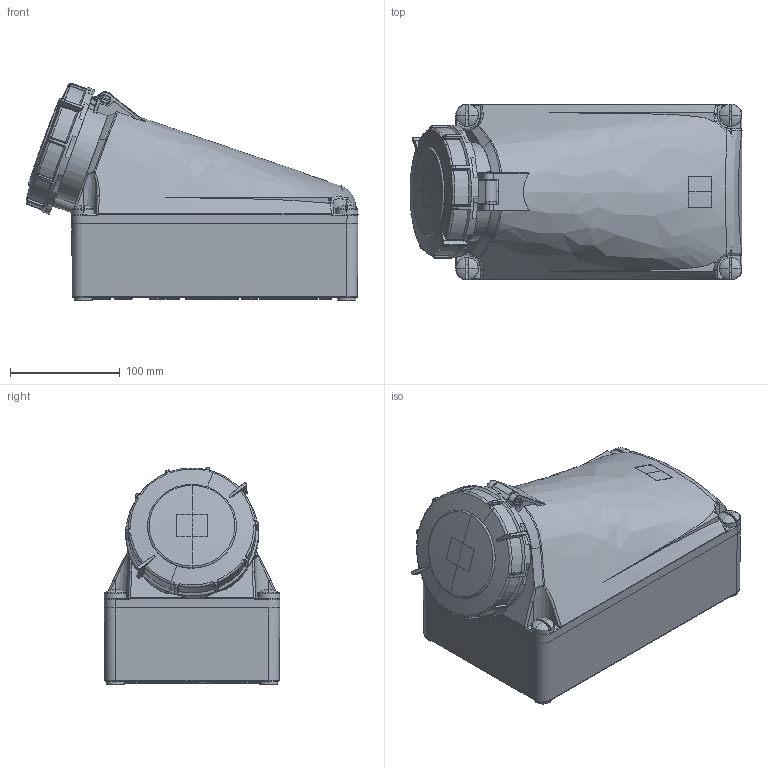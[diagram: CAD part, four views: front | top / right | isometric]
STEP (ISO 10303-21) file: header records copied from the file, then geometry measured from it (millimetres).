
FILE_DESCRIPTION (( 'STEP AP203' ), '1' );
FILE_NAME ('DIS51512553 (WS 3p 125ﾀ 230ﾂ IP67).STEP', '2024-08-30T07:52:38', ( '' ), ( '' ), 'SwSTEP 2.0', 'SolidWorks 2022', '' );
FILE_SCHEMA (( 'CONFIG_CONTROL_DESIGN' ));
Products named in the file (1): DIS51512553 (WS 3p 125А 230В IP67)
Bounding box: 302.81 x 160.43 x 198.32 mm (x, y, z)
Surface area: 252773.3 mm2 (no closed solid volume)
Topology: 0 solids, 20 shells, 1715 faces, 4272 edges, 2601 vertices
Faces by surface type: cylinder 603, plane 425, torus 273, bspline 215, cone 117, sphere 82
Entity records: 82636 total; most frequent: CARTESIAN_POINT 44595, ORIENTED_EDGE 8392, DIRECTION 7496, EDGE_CURVE 4199, AXIS2_PLACEMENT_3D 3207, VERTEX_POINT 2587, EDGE_LOOP 1799, FACE_OUTER_BOUND 1715
